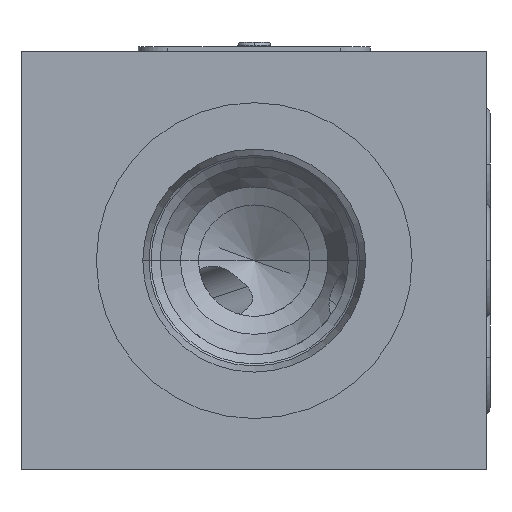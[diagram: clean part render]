
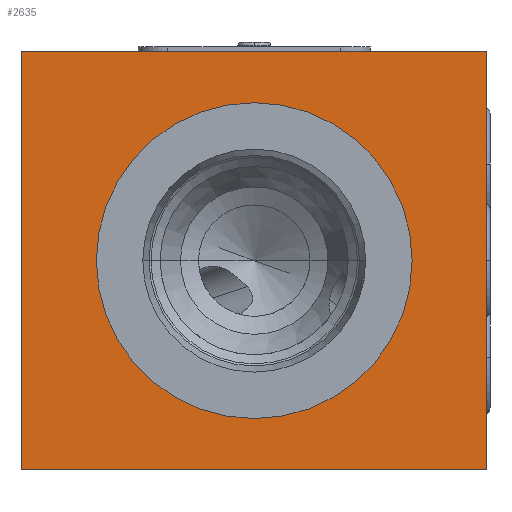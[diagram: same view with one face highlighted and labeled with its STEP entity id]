
A CAD part, left-side view. The second image highlights one B-rep face of the part: STEP entity #2635.
In plain terms, the highlighted planar face has unit normal (-1, 0, 0).
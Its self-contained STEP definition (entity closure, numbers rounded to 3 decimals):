
#55=DIRECTION('',(0.,0.,-1.));
#56=VECTOR('',#55,45.);
#57=CARTESIAN_POINT('',(0.,0.,0.));
#58=LINE('',#57,#56);
#62=DIRECTION('',(0.,1.,0.));
#63=VECTOR('',#62,50.);
#64=CARTESIAN_POINT('',(0.,0.,-45.));
#65=LINE('',#64,#63);
#69=DIRECTION('',(0.,0.,1.));
#70=VECTOR('',#69,45.);
#71=CARTESIAN_POINT('',(0.,50.,-45.));
#72=LINE('',#71,#70);
#76=DIRECTION('',(0.,-1.,0.));
#77=VECTOR('',#76,50.);
#78=CARTESIAN_POINT('',(0.,50.,0.));
#79=LINE('',#78,#77);
#83=CARTESIAN_POINT('',(0.,25.,-22.5));
#84=DIRECTION('',(1.,0.,0.));
#85=DIRECTION('',(0.,-1.,0.));
#86=AXIS2_PLACEMENT_3D('',#83,#84,#85);
#91=CARTESIAN_POINT('',(0.,25.,-22.5));
#92=DIRECTION('',(1.,0.,0.));
#93=DIRECTION('',(0.,1.,0.));
#94=AXIS2_PLACEMENT_3D('',#91,#92,#93);
#2356=CARTESIAN_POINT('',(0.,0.,0.));
#2357=CARTESIAN_POINT('',(0.,0.,-45.));
#2358=VERTEX_POINT('',#2356);
#2359=VERTEX_POINT('',#2357);
#2360=CARTESIAN_POINT('',(0.,50.,-45.));
#2361=VERTEX_POINT('',#2360);
#2362=CARTESIAN_POINT('',(0.,50.,0.));
#2363=VERTEX_POINT('',#2362);
#2519=CARTESIAN_POINT('',(0.,8.,-22.5));
#2520=VERTEX_POINT('',#2519);
#2521=CARTESIAN_POINT('',(0.,42.,-22.5));
#2522=VERTEX_POINT('',#2521);
#2614=CARTESIAN_POINT('',(0.,0.,0.));
#2615=DIRECTION('',(1.,0.,0.));
#2616=DIRECTION('',(0.,0.,-1.));
#2617=AXIS2_PLACEMENT_3D('',#2614,#2615,#2616);
#2618=PLANE('',#2617);
#2620=ORIENTED_EDGE('',*,*,#2619,.T.);
#2622=ORIENTED_EDGE('',*,*,#2621,.T.);
#2624=ORIENTED_EDGE('',*,*,#2623,.T.);
#2626=ORIENTED_EDGE('',*,*,#2625,.T.);
#2627=EDGE_LOOP('',(#2620,#2622,#2624,#2626));
#2628=FACE_OUTER_BOUND('',#2627,.F.);
#2630=ORIENTED_EDGE('',*,*,#2629,.F.);
#2632=ORIENTED_EDGE('',*,*,#2631,.F.);
#2633=EDGE_LOOP('',(#2630,#2632));
#2634=FACE_BOUND('',#2633,.F.);
#87=CIRCLE('',#86,17.);
#95=CIRCLE('',#94,17.);
#2619=EDGE_CURVE('',#2358,#2359,#58,.T.);
#2621=EDGE_CURVE('',#2359,#2361,#65,.T.);
#2623=EDGE_CURVE('',#2361,#2363,#72,.T.);
#2625=EDGE_CURVE('',#2363,#2358,#79,.T.);
#2629=EDGE_CURVE('',#2520,#2522,#87,.T.);
#2631=EDGE_CURVE('',#2522,#2520,#95,.T.);
#2635=ADVANCED_FACE('',(#2628,#2634),#2618,.F.);
